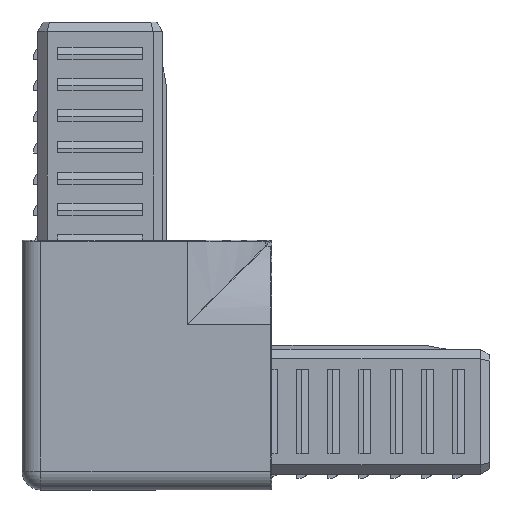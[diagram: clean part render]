
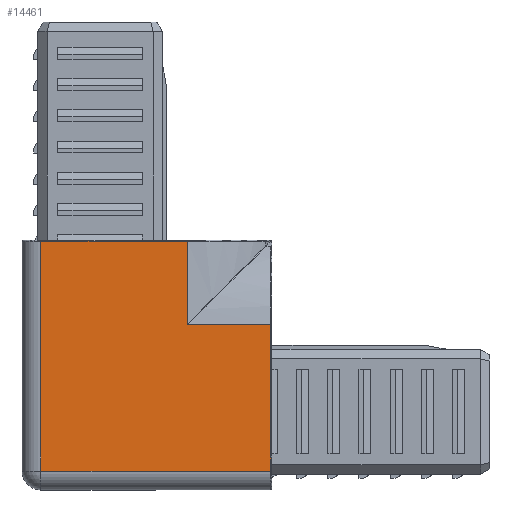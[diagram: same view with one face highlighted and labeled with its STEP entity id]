
A CAD part, top view. The second image highlights one B-rep face of the part: STEP entity #14461.
In plain terms, the highlighted planar face has unit normal (0, 0, 1).
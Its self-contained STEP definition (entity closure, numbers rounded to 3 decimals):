
#9 = CARTESIAN_POINT ( 'NONE',  ( 6.5, 6.514, 12.5 ) ) ;
#63 = CARTESIAN_POINT ( 'NONE',  ( 6.504, 6.503, 12.5 ) ) ;
#117 = ORIENTED_EDGE ( 'NONE', *, *, #2291, .T. ) ;
#725 = VECTOR ( 'NONE', #9751, 1000. ) ;
#761 = DIRECTION ( 'NONE',  ( 0., -1., 0. ) ) ;
#1046 = EDGE_LOOP ( 'NONE', ( #5030, #117, #4155, #2739, #2548, #14437, #8181 ) ) ;
#1262 = CARTESIAN_POINT ( 'NONE',  ( 6.503, 6.505, 12.5 ) ) ;
#2243 = LINE ( 'NONE', #11023, #725 ) ;
#2291 = EDGE_CURVE ( 'NONE', #12158, #13960, #13764, .T. ) ;
#2434 = CARTESIAN_POINT ( 'NONE',  ( 6.513, 6.5, 12.5 ) ) ;
#2482 = CARTESIAN_POINT ( 'NONE',  ( 6.5, 6.515, 12.5 ) ) ;
#2548 = ORIENTED_EDGE ( 'NONE', *, *, #11415, .T. ) ;
#2572 = CARTESIAN_POINT ( 'NONE',  ( 6.502, 6.506, 12.5 ) ) ;
#2630 = CARTESIAN_POINT ( 'NONE',  ( 6.501, 6.508, 12.5 ) ) ;
#2739 = ORIENTED_EDGE ( 'NONE', *, *, #7911, .F. ) ;
#2964 = DIRECTION ( 'NONE',  ( -1., 0., 0. ) ) ;
#3053 = VERTEX_POINT ( 'NONE', #8721 ) ;
#3174 = CARTESIAN_POINT ( 'NONE',  ( 19.85, -17., 12.5 ) ) ;
#3290 = CARTESIAN_POINT ( 'NONE',  ( -17., -17., 12.5 ) ) ;
#3611 = CARTESIAN_POINT ( 'NONE',  ( 6.508, 6.501, 12.5 ) ) ;
#3764 = CARTESIAN_POINT ( 'NONE',  ( 6.515, 6.5, 12.5 ) ) ;
#4155 = ORIENTED_EDGE ( 'NONE', *, *, #8933, .T. ) ;
#4508 = LINE ( 'NONE', #5303, #6545 ) ;
#4802 = CARTESIAN_POINT ( 'NONE',  ( 6.5, 6.514, 12.5 ) ) ;
#5030 = ORIENTED_EDGE ( 'NONE', *, *, #11671, .F. ) ;
#5167 = VERTEX_POINT ( 'NONE', #12392 ) ;
#5303 = CARTESIAN_POINT ( 'NONE',  ( 0., 6.5, 12.5 ) ) ;
#5527 = LINE ( 'NONE', #15172, #12142 ) ;
#5651 = CARTESIAN_POINT ( 'NONE',  ( 0., 0., 12.5 ) ) ;
#6114 = CARTESIAN_POINT ( 'NONE',  ( 6.515, 6.5, 12.5 ) ) ;
#6398 = LINE ( 'NONE', #10553, #11521 ) ;
#6545 = VECTOR ( 'NONE', #2964, 1000. ) ;
#7030 = DIRECTION ( 'NONE',  ( 0., 0., -1. ) ) ;
#7180 = VERTEX_POINT ( 'NONE', #3290 ) ;
#7221 = CARTESIAN_POINT ( 'NONE',  ( 6.511, 6.5, 12.5 ) ) ;
#7911 = EDGE_CURVE ( 'NONE', #13959, #7180, #6398, .T. ) ;
#8181 = ORIENTED_EDGE ( 'NONE', *, *, #12045, .T. ) ;
#8397 = CARTESIAN_POINT ( 'NONE',  ( 6.5, 6.509, 12.5 ) ) ;
#8721 = CARTESIAN_POINT ( 'NONE',  ( 6.5, 6.515, 12.5 ) ) ;
#8933 = EDGE_CURVE ( 'NONE', #13960, #7180, #5527, .T. ) ;
#9187 = CARTESIAN_POINT ( 'NONE',  ( 0., 19.85, 12.5 ) ) ;
#9306 = DIRECTION ( 'NONE',  ( 0., -1., 0. ) ) ;
#9535 = CARTESIAN_POINT ( 'NONE',  ( 6.502, 6.507, 12.5 ) ) ;
#9587 = CARTESIAN_POINT ( 'NONE',  ( 6.507, 6.501, 12.5 ) ) ;
#9751 = DIRECTION ( 'NONE',  ( 0., 1., 0. ) ) ;
#9941 = CARTESIAN_POINT ( 'NONE',  ( 6.5, 19.85, 12.5 ) ) ;
#10169 = VECTOR ( 'NONE', #761, 1000. ) ;
#10394 = EDGE_CURVE ( 'NONE', #5167, #10783, #4508, .T. ) ;
#10553 = CARTESIAN_POINT ( 'NONE',  ( 0., -17., 12.5 ) ) ;
#10675 = CARTESIAN_POINT ( 'NONE',  ( 6.509, 6.501, 12.5 ) ) ;
#10783 = VERTEX_POINT ( 'NONE', #6114 ) ;
#10818 = CARTESIAN_POINT ( 'NONE',  ( 6.504, 6.504, 12.5 ) ) ;
#11023 = CARTESIAN_POINT ( 'NONE',  ( 19.85, 0., 12.5 ) ) ;
#11415 = EDGE_CURVE ( 'NONE', #13959, #5167, #2243, .T. ) ;
#11471 = AXIS2_PLACEMENT_3D ( 'NONE', #5651, #7030, #12813 ) ;
#11517 = B_SPLINE_CURVE_WITH_KNOTS ( 'NONE', 3,
 ( #3764, #2434, #7221, #10675, #3611, #9587, #12003, #63, #10818, #1262, #2572, #9535, #2630, #8397, #13068, #14267, #9, #4802, #2482 ),
 .UNSPECIFIED., .F., .F.,
 ( 4, 3, 3, 3, 3, 3, 4 ),
 ( 0., 0., 0., 0., 0., 0., 0. ),
 .UNSPECIFIED. ) ;
#11521 = VECTOR ( 'NONE', #12992, 1000. ) ;
#11542 = PLANE ( 'NONE',  #11471 ) ;
#11628 = LINE ( 'NONE', #14825, #10169 ) ;
#11671 = EDGE_CURVE ( 'NONE', #12158, #3053, #11628, .T. ) ;
#12003 = CARTESIAN_POINT ( 'NONE',  ( 6.505, 6.502, 12.5 ) ) ;
#12045 = EDGE_CURVE ( 'NONE', #10783, #3053, #11517, .T. ) ;
#12142 = VECTOR ( 'NONE', #9306, 1000. ) ;
#12158 = VERTEX_POINT ( 'NONE', #9941 ) ;
#12392 = CARTESIAN_POINT ( 'NONE',  ( 19.85, 6.5, 12.5 ) ) ;
#12813 = DIRECTION ( 'NONE',  ( -1., 0., 0. ) ) ;
#12816 = DIRECTION ( 'NONE',  ( -1., 0., 0. ) ) ;
#12992 = DIRECTION ( 'NONE',  ( -1., 0., 0. ) ) ;
#13068 = CARTESIAN_POINT ( 'NONE',  ( 6.5, 6.511, 12.5 ) ) ;
#13186 = VECTOR ( 'NONE', #12816, 1000. ) ;
#13764 = LINE ( 'NONE', #9187, #13186 ) ;
#13959 = VERTEX_POINT ( 'NONE', #3174 ) ;
#13960 = VERTEX_POINT ( 'NONE', #14049 ) ;
#14049 = CARTESIAN_POINT ( 'NONE',  ( -17., 19.85, 12.5 ) ) ;
#14267 = CARTESIAN_POINT ( 'NONE',  ( 6.5, 6.513, 12.5 ) ) ;
#14437 = ORIENTED_EDGE ( 'NONE', *, *, #10394, .T. ) ;
#14461 = ADVANCED_FACE ( 'NONE', ( #15106 ), #11542, .F. ) ;
#14825 = CARTESIAN_POINT ( 'NONE',  ( 6.5, 0., 12.5 ) ) ;
#15106 = FACE_OUTER_BOUND ( 'NONE', #1046, .T. ) ;
#15172 = CARTESIAN_POINT ( 'NONE',  ( -17., 0., 12.5 ) ) ;
